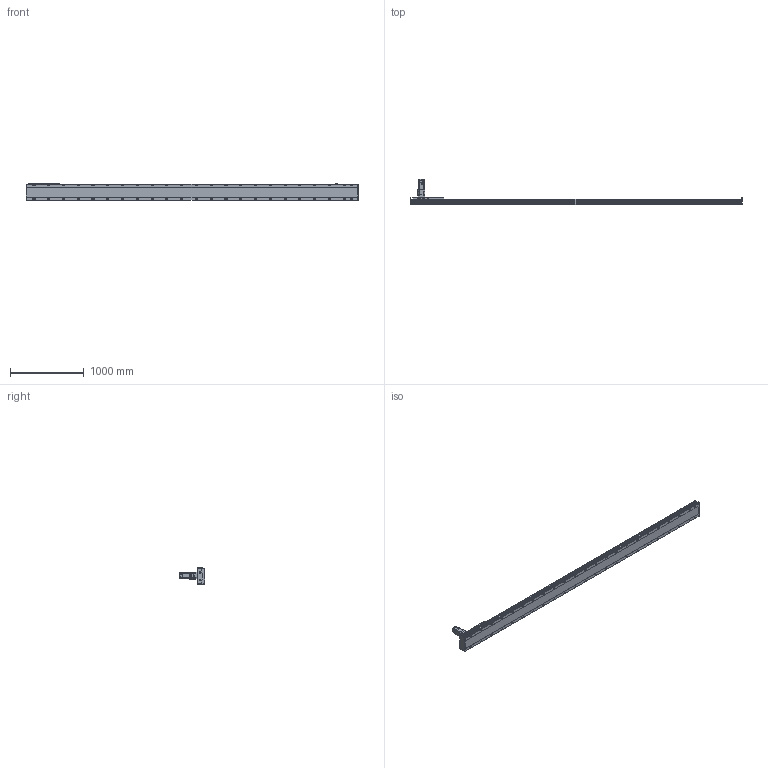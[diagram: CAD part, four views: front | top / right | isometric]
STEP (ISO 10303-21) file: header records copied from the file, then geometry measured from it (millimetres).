
FILE_DESCRIPTION(/* description */ ('STEP AP214'),/* implementation_level */ '2;1');
FILE_NAME(/* name */ 'SHS22A-L13-S4000-BC-T75-C1-N(0)',/* time_stamp */ '2022-06-15T02:28:35+02:00',/* author */ ('License CC BY-ND 4.0'),/* organization */ ('CADENAS'),/* preprocessor_version */ 'ST-DEVELOPER v18.102',/* originating_system */ 'PARTsolutions',/* authorisation */ ' ');
FILE_SCHEMA (('AUTOMOTIVE_DESIGN {1 0 10303 214 3 1 1}'));
Length unit declared in the file: millimetre
Products named in the file (7): SHS22A-L13-S4000-BC-T75-C1-N(0); PSC140-sensor; SHS22A-S4000_body2; T75-p1; SHS22A-S4000_body3; SHS22A-S4000_slider; SHS22A-L13-S4000-BC-T75-C1(0)_body
Assembly tree (13 placements, depth 2):
  SHS22A-L13-S4000-BC-T75-C1-N(0)
    PSC140-sensor  x3
    SHS22A-S4000_body2  x6
    T75-p1
    SHS22A-S4000_body3
    SHS22A-S4000_slider
    SHS22A-L13-S4000-BC-T75-C1(0)_body
Bounding box: 4494 x 350.8 x 238.4 mm (x, y, z)
Volume: 48005642.2 mm3; surface area: 4905415.7 mm2
Topology: 13 solids, 13 shells, 1977 faces, 5059 edges, 3310 vertices
Faces by surface type: plane 1372, cylinder 485, cone 111, torus 9
Full cylindrical faces by diameter (mm): 2.8 x3, 4.2 x2, 4.6 x3, 4.917 x4, 5 x4, 5.6 x24, 6 x31, 6.6 x24, 6.647 x8, 6.8 x9, 7.75 x6, 8 x3, 8.376 x46, 8.5 x46, 10 x4, 11 x4, 12 x24, 14 x46, 22 x1, 24.1 x1, 28 x1, 28.2 x1, 28.8 x1, 48.542 x1, 68 x1, 70 x1, 78 x1, 80 x2
Entity records: 33779 total; most frequent: CARTESIAN_POINT 6131, DIRECTION 5729, ORIENTED_EDGE 5088, EDGE_CURVE 2544, AXIS2_PLACEMENT_3D 2070, VERTEX_POINT 1854, FACE_BOUND 1838, EDGE_LOOP 1837
